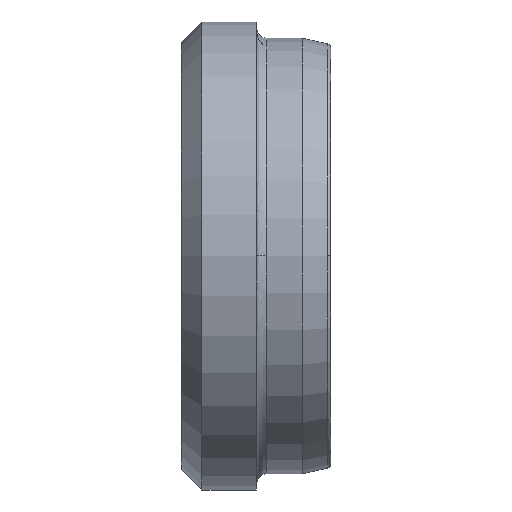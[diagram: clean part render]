
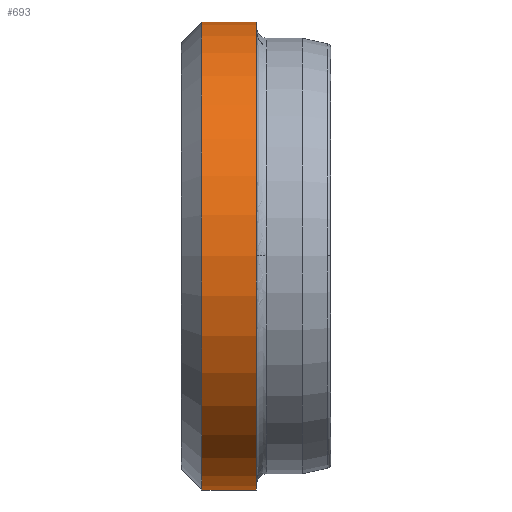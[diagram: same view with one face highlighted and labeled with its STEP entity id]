
A CAD part, top view. The second image highlights one B-rep face of the part: STEP entity #693.
In plain terms, the highlighted cylindrical face has radius 20.5 mm (diameter 41 mm), a partial arc.
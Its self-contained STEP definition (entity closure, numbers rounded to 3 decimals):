
#652=CARTESIAN_POINT('',(-5.037,-13.382,0.0));
#653=DIRECTION('',(1.0,0.0,0.0));
#654=DIRECTION('',(0.0,1.0,0.0));
#655=AXIS2_PLACEMENT_3D('',#652,#653,#654);
#656=CYLINDRICAL_SURFACE('',#655,20.5);
#657=CARTESIAN_POINT('',(-6.525,7.118,0.0));
#658=VERTEX_POINT('',#657);
#659=CARTESIAN_POINT('',(-1.75,7.118,0.0));
#660=VERTEX_POINT('',#659);
#661=CARTESIAN_POINT('',(-6.525,7.118,0.0));
#662=DIRECTION('',(1.0,0.0,0.0));
#663=VECTOR('',#662,4.775);
#664=LINE('',#661,#663);
#665=EDGE_CURVE('',#658,#660,#664,.T.);
#666=ORIENTED_EDGE('',*,*,#665,.F.);
#667=CARTESIAN_POINT('',(-6.525,-33.882,0.));
#668=VERTEX_POINT('',#667);
#669=CARTESIAN_POINT('',(-6.525,-13.382,0.0));
#670=DIRECTION('',(-1.0,0.0,0.0));
#671=DIRECTION('',(0.0,-1.0,0.0));
#672=AXIS2_PLACEMENT_3D('',#669,#670,#671);
#673=CIRCLE('',#672,20.5);
#674=EDGE_CURVE('',#668,#658,#673,.T.);
#675=ORIENTED_EDGE('',*,*,#674,.F.);
#676=CARTESIAN_POINT('',(-1.75,-33.882,0.));
#677=VERTEX_POINT('',#676);
#678=CARTESIAN_POINT('',(-1.75,-33.882,0.));
#679=DIRECTION('',(-1.0,0.0,0.0));
#680=VECTOR('',#679,4.775);
#681=LINE('',#678,#680);
#682=EDGE_CURVE('',#677,#668,#681,.T.);
#683=ORIENTED_EDGE('',*,*,#682,.F.);
#684=CARTESIAN_POINT('',(-1.75,-13.382,0.0));
#685=DIRECTION('',(1.0,0.0,0.0));
#686=DIRECTION('',(0.0,1.0,0.0));
#687=AXIS2_PLACEMENT_3D('',#684,#685,#686);
#688=CIRCLE('',#687,20.5);
#689=EDGE_CURVE('',#660,#677,#688,.T.);
#690=ORIENTED_EDGE('',*,*,#689,.F.);
#691=EDGE_LOOP('',(#666,#675,#683,#690));
#692=FACE_OUTER_BOUND('',#691,.T.);
#693=ADVANCED_FACE('',(#692),#656,.T.);
